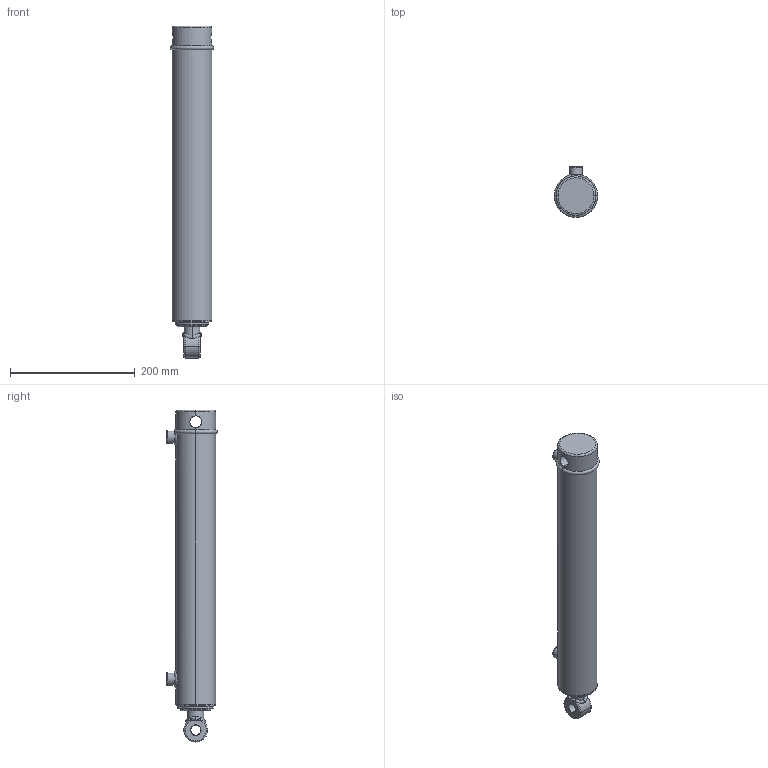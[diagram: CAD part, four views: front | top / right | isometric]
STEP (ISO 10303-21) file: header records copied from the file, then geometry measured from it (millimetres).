
FILE_DESCRIPTION (( 'STEP AP203' ), '1' );
FILE_NAME ('SB-C200100X355 (14).STEP', '2014-12-01T23:55:37', ( '' ), ( '' ), 'SwSTEP 2.0', 'SolidWorks 2014', '' );
FILE_SCHEMA (( 'CONFIG_CONTROL_DESIGN' ));
Length unit declared in the file: millimetre
Products named in the file (5): SB-C200100X355 (14) BODY; 2 inch circlip; SB-C2 14 SPARE; SB-C200100X355 (14)
Assembly tree (4 placements, depth 3):
  SB-C200100X355 (14)
    SB-C200100X355 (14) BODY
    2 inch circlip
    SB-C2 14 SPARE
      SB-C2 14 SPARE
Bounding box: 69.5 x 81.5 x 532 mm (x, y, z)
Volume: 1629182 mm3; surface area: 173471 mm2
Topology: 3 solids, 3 shells, 130 faces, 324 edges, 203 vertices
Faces by surface type: cylinder 51, bspline 25, plane 25, torus 21, cone 8
Entity records: 9343 total; most frequent: CARTESIAN_POINT 5899, ORIENTED_EDGE 640, DIRECTION 595, EDGE_CURVE 320, AXIS2_PLACEMENT_3D 263, VERTEX_POINT 203, CIRCLE 150, EDGE_LOOP 149
